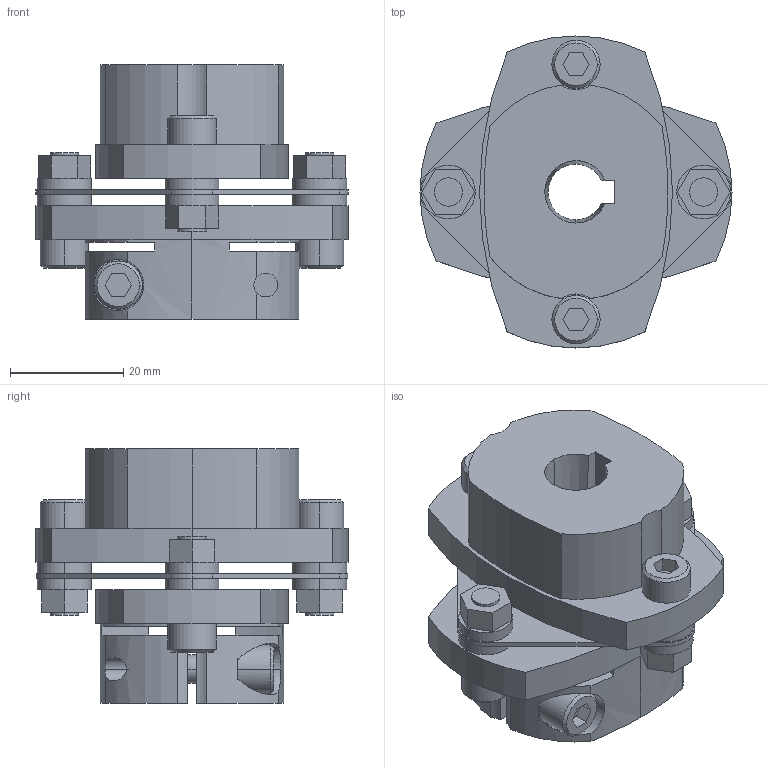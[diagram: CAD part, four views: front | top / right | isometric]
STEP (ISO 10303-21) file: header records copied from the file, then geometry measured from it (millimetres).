
FILE_DESCRIPTION((''),'2;1');
FILE_NAME('LCS-55M-11L亊17B.stp','2015-10-27T19:11:01',(''),(''),'AutoCAD STEP 2000i','AutoCAD 2000i',', , ');
FILE_SCHEMA(('CONFIG_CONTROL_DESIGN'));
Length unit declared in the file: millimetre
Products named in the file (8): LCS-55M-11L×17B; 忣兜1; LC55M-L011; LC55-B017-1; LC55-B017; LC55-B010-1; LC55-B010; LCS55-ITA
Assembly tree (8 placements, depth 2):
  LCS-55M-11L×17B
    忣兜1
    LC55M-L011  x2
    LC55-B017-1
    LC55-B017
    LC55-B010-1
    LC55-B010
    LCS55-ITA
Bounding box: 55 x 55 x 44.8 mm (x, y, z)
Volume: 44128.2 mm3; surface area: 18918.9 mm2
Topology: 1 solids, 1 shells, 242 faces, 616 edges, 404 vertices
Faces by surface type: plane 117, cylinder 104, cone 21
Entity records: 7827 total; most frequent: CARTESIAN_POINT 1555, DIRECTION 1340, ORIENTED_EDGE 1232, EDGE_CURVE 616, AXIS2_PLACEMENT_3D 495, VERTEX_POINT 404, VECTOR 350, LINE 350
